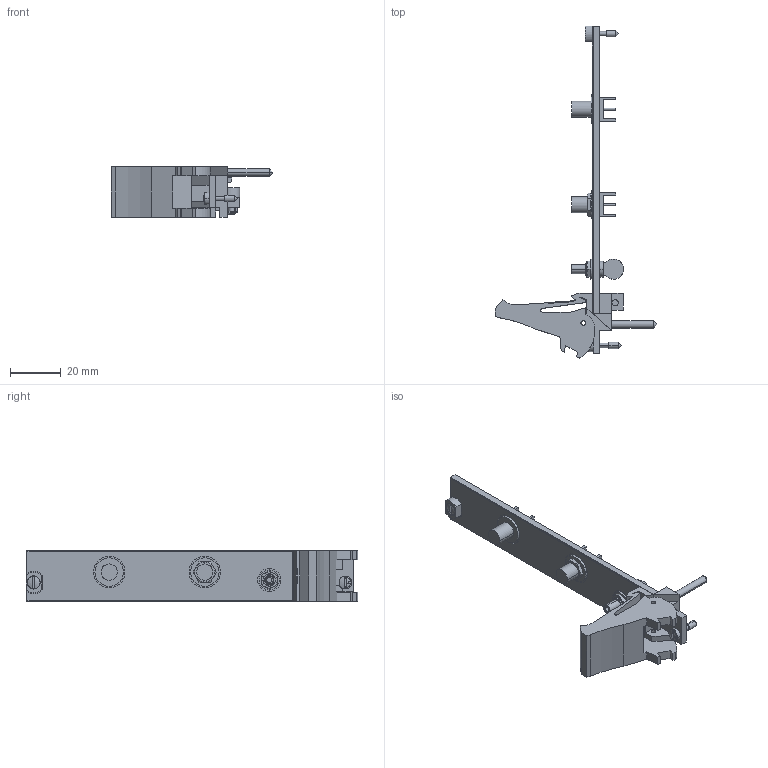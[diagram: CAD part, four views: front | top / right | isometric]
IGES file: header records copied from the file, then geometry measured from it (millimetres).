
Start section:  PTC IGES file: cu_pxi-5620.igs
Global section: file name: cu_pxi-5620.igs; native system: Pro/ENGINEER by Parametric Technology Corporation; preprocessor: 2006080; author: jjorden; organization: Unknown; date: 091111.144425; units: inch
Bounding box: 63.53 x 130.51 x 20.02 mm (x, y, z)
Surface area: 13464.9 mm2 (no closed solid volume)
Topology: 0 solids, 0 shells, 418 faces, 2176 edges, 2172 vertices
Faces by surface type: bspline 283, revolution 135
